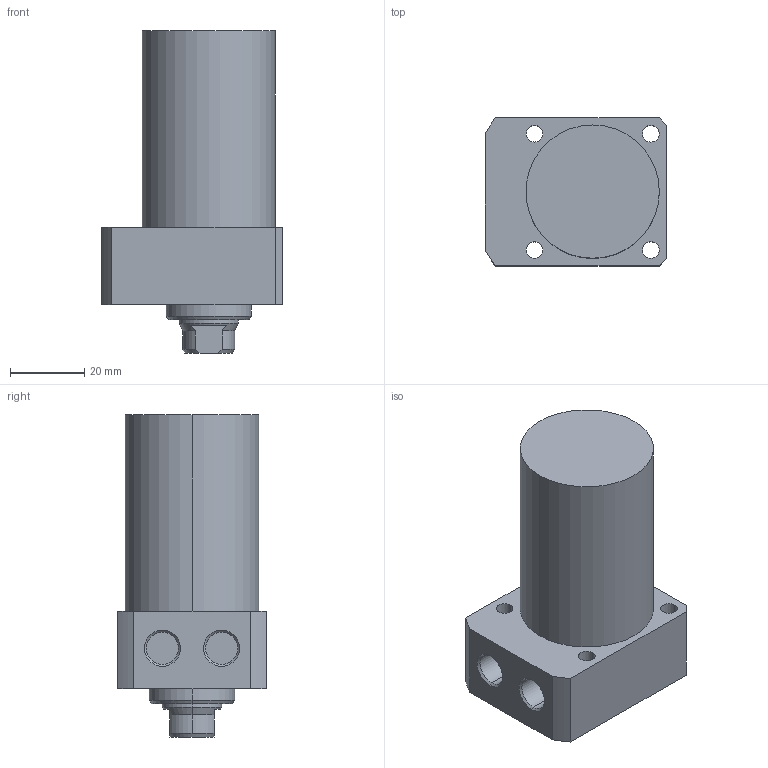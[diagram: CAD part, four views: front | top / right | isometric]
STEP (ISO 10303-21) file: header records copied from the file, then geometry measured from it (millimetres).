
FILE_DESCRIPTION (( 'STEP AP203' ), '1' );
FILE_NAME ('CLLR-036CA-045.STEP', '2019-12-20T00:32:31', ( '' ), ( '' ), 'SwSTEP 2.0', 'SolidWorks 2015', '' );
FILE_SCHEMA (( 'CONFIG_CONTROL_DESIGN' ));
Length unit declared in the file: millimetre
Products named in the file (1): CLLR-036CA-045
Bounding box: 49 x 40 x 87 mm (x, y, z)
Volume: 94651.1 mm3; surface area: 16073.9 mm2
Topology: 1 solids, 1 shells, 63 faces, 149 edges, 94 vertices
Faces by surface type: cylinder 29, plane 19, cone 15
Entity records: 1927 total; most frequent: DIRECTION 340, CARTESIAN_POINT 337, ORIENTED_EDGE 294, EDGE_CURVE 147, AXIS2_PLACEMENT_3D 137, VERTEX_POINT 94, EDGE_LOOP 79, CIRCLE 73
